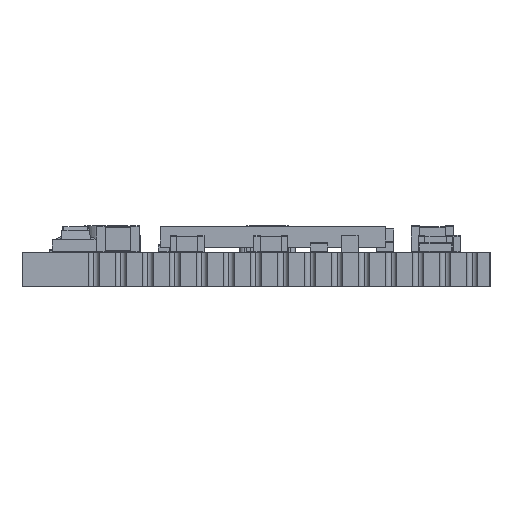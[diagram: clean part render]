
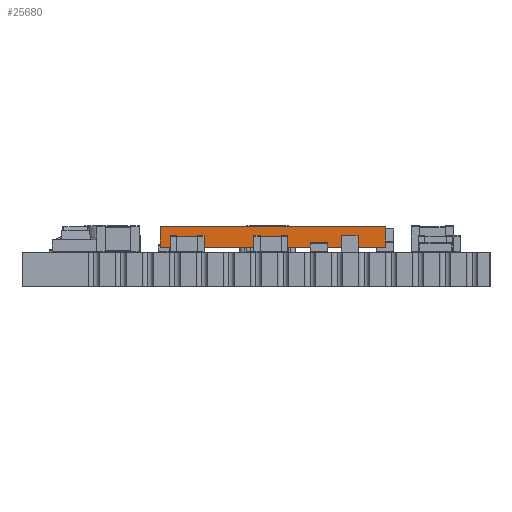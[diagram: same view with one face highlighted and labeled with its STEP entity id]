
A CAD part, left-side view. The second image highlights one B-rep face of the part: STEP entity #25680.
In plain terms, the highlighted planar face has unit normal (-1, 0, 0).
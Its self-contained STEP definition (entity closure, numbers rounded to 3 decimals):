
#25275 = VERTEX_POINT('',#25276);
#25276 = CARTESIAN_POINT('',(0.,0.,1.2));
#25284 = EDGE_CURVE('',#25275,#25285,#25287,.T.);
#25285 = VERTEX_POINT('',#25286);
#25286 = CARTESIAN_POINT('',(0.,-10.6,1.2));
#25287 = LINE('',#25288,#25289);
#25288 = CARTESIAN_POINT('',(0.,-5.3,1.2));
#25289 = VECTOR('',#25290,1.);
#25290 = DIRECTION('',(0.,-1.,0.));
#25541 = VERTEX_POINT('',#25542);
#25542 = CARTESIAN_POINT('',(0.,0.,0.25));
#25550 = EDGE_CURVE('',#25275,#25541,#25551,.T.);
#25551 = LINE('',#25552,#25553);
#25552 = CARTESIAN_POINT('',(0.,0.,1.2));
#25553 = VECTOR('',#25554,1.);
#25554 = DIRECTION('',(0.,0.,-1.));
#25629 = VERTEX_POINT('',#25630);
#25630 = CARTESIAN_POINT('',(0.,-10.6,0.25));
#25636 = EDGE_CURVE('',#25541,#25629,#25637,.T.);
#25637 = LINE('',#25638,#25639);
#25638 = CARTESIAN_POINT('',(0.,-5.3,0.25));
#25639 = VECTOR('',#25640,1.);
#25640 = DIRECTION('',(0.,-1.,0.));
#25670 = EDGE_CURVE('',#25285,#25629,#25671,.T.);
#25671 = LINE('',#25672,#25673);
#25672 = CARTESIAN_POINT('',(0.,-10.6,1.2));
#25673 = VECTOR('',#25674,1.);
#25674 = DIRECTION('',(0.,0.,-1.));
#25680 = ADVANCED_FACE('',(#25681),#25687,.F.);
#25681 = FACE_BOUND('',#25682,.T.);
#25682 = EDGE_LOOP('',(#25683,#25684,#25685,#25686));
#25683 = ORIENTED_EDGE('',*,*,#25636,.T.);
#25684 = ORIENTED_EDGE('',*,*,#25670,.F.);
#25685 = ORIENTED_EDGE('',*,*,#25284,.F.);
#25686 = ORIENTED_EDGE('',*,*,#25550,.T.);
#25687 = PLANE('',#25688);
#25688 = AXIS2_PLACEMENT_3D('',#25689,#25690,#25691);
#25689 = CARTESIAN_POINT('',(0.,-5.3,1.2));
#25690 = DIRECTION('',(1.,0.,0.));
#25691 = DIRECTION('',(0.,1.,0.));
